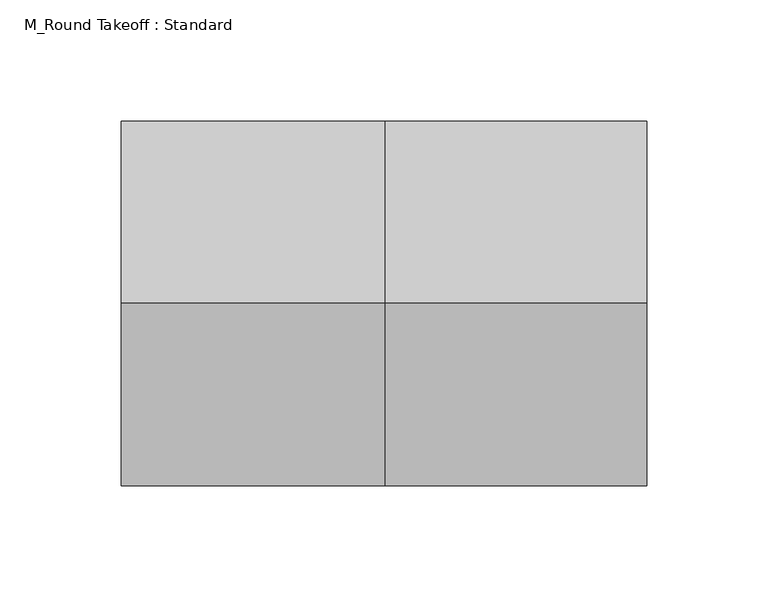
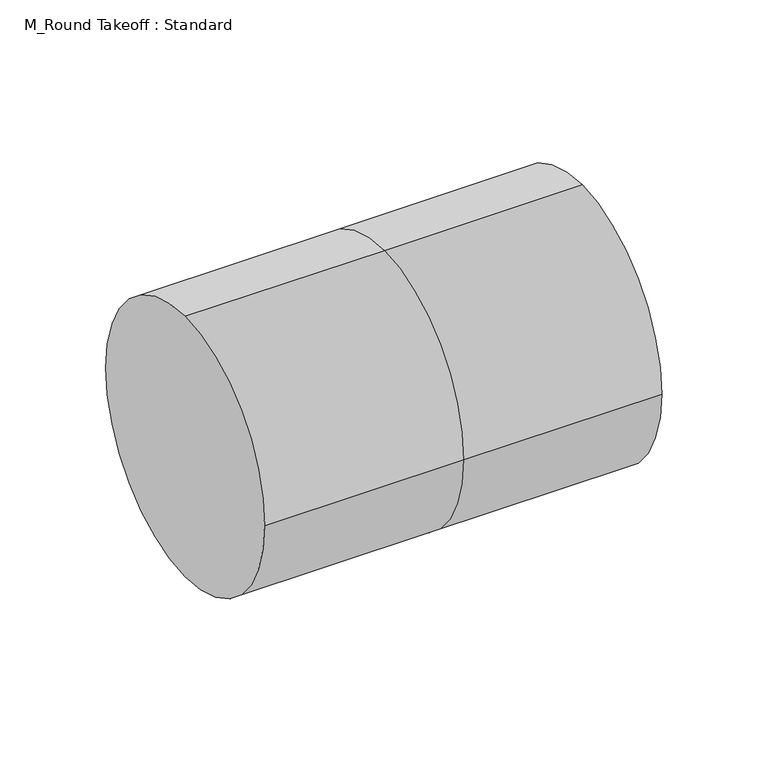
"""IFC4 building model written with IfcOpenShell, lengths in millimetres: duct fitting geometry, M_Round Takeoff : Standard."""

import ifcopenshell
import ifcopenshell.guid

model = None  # the IFC model being written
_history = None  # IfcOwnerHistory: only IFC2X3 demands one
_inside = {}  # id of a spatial element -> (the spatial element, [elements in it])
_under = {}  # id of a project, library or spatial element -> (it, [spatial elements below it])
_declared = {}  # id of a project -> (the project, [libraries it declares])
_typed = {}  # id of a type object -> (the type object, [elements of that type])
_made_of = {}  # id of a material, layer set ... -> (it, [elements and type objects made of it])


def new_model(schema):
    """Start an empty IFC model of exactly this schema.

    Asked for "IFC4X3", IfcOpenShell would pick the latest addendum, in which some entities
    have other attributes; the version numbers below select the first issue.
    IFC2X3 requires an IfcOwnerHistory on every rooted entity: one is made here for all.
    """
    global model, _history
    if schema == "IFC4X3":
        model = ifcopenshell.file(schema_version=(4, 3, 0, 0))
    else:
        model = ifcopenshell.file(schema=schema)
    _inside.clear()
    _under.clear()
    _declared.clear()
    _typed.clear()
    _made_of.clear()
    _history = None
    if model.schema == "IFC2X3":
        org = make("IfcOrganization", Name="unknown")
        user = make(
            "IfcPersonAndOrganization",
            ThePerson=make("IfcPerson", FamilyName="unknown"),
            TheOrganization=org,
        )
        app = make(
            "IfcApplication",
            ApplicationDeveloper=org,
            Version="unknown",
            ApplicationFullName="unknown",
            ApplicationIdentifier="unknown",
        )
        _history = make(
            "IfcOwnerHistory",
            OwningUser=user,
            OwningApplication=app,
            ChangeAction="ADDED",
            CreationDate=0,
        )
    return model


def make(cls, **values):
    """One entity of the class cls with the attributes given. An attribute that is None is left unset."""
    return model.create_entity(
        cls, **{name: value for name, value in values.items() if value is not None}
    )


def rooted(cls, **values):
    """An entity with a GlobalId (a new one), such as an element, a storey or a relation."""
    return make(cls, GlobalId=ifcopenshell.guid.new(), OwnerHistory=_history, **values)


def si_unit(unit_type, name, prefix=None):
    """IfcSIUnit, for example si_unit("LENGTHUNIT", "METRE", prefix="MILLI")."""
    return make("IfcSIUnit", UnitType=unit_type, Prefix=prefix, Name=name)


def assignment(units):
    """IfcUnitAssignment: the units of a project."""
    return None if units is None else make("IfcUnitAssignment", Units=units)


def point(xyz):
    """IfcCartesianPoint."""
    return None if xyz is None else make("IfcCartesianPoint", Coordinates=xyz)


def direction(xyz):
    """IfcDirection."""
    return None if xyz is None else make("IfcDirection", DirectionRatios=xyz)


def frame(location, z_axis=None, x_axis=None):
    """IfcAxis2Placement3D, a coordinate frame: its origin and axes. An axis left out is left unset."""
    return make(
        "IfcAxis2Placement3D",
        Location=point(location),
        Axis=direction(z_axis),
        RefDirection=direction(x_axis),
    )


def origin():
    """The frame at (0, 0, 0) with its axes left unset."""
    return frame((0.0, 0.0, 0.0))


def place(relative_to, where):
    """IfcLocalPlacement: puts the frame where relative to a parent placement (None: the world)."""
    return make(
        "IfcLocalPlacement", PlacementRelTo=relative_to, RelativePlacement=where
    )


def context(
    kind, dimensions, precision=None, world=None, true_north=None, identifier=None
):
    """IfcGeometricRepresentationContext, for example the 3D "Model" context."""
    return make(
        "IfcGeometricRepresentationContext",
        ContextIdentifier=identifier,
        ContextType=kind,
        CoordinateSpaceDimension=dimensions,
        Precision=precision,
        WorldCoordinateSystem=world,
        TrueNorth=true_north,
    )


def project(units=None, contexts=None):
    """IfcProject with its units and contexts."""
    return rooted(
        "IfcProject",
        Name="project",
        RepresentationContexts=contexts,
        UnitsInContext=assignment(units),
    )


def spatial(cls, under=None, at=None, **own):
    """A site, building, storey or space (cls), placed at a placement, below another one or the project."""
    s = rooted(cls, ObjectPlacement=at, **own)
    if under is not None:
        _under.setdefault(under.id(), (under, []))[1].append(s)
    return s


def circle_curve(where, radius):
    """IfcCircle in the frame where."""
    return make("IfcCircle", Position=where, Radius=radius)


def shape(context_of_items, identifier, shape_type, items):
    """IfcShapeRepresentation: the items that make up one representation, for example the "Body"."""
    return make(
        "IfcShapeRepresentation",
        ContextOfItems=context_of_items,
        RepresentationIdentifier=identifier,
        RepresentationType=shape_type,
        Items=items,
    )


def source(mapping_origin, context_of_items, identifier, shape_type, items):
    """IfcRepresentationMap: a shape defined once, which mapped items show again and again."""
    return make(
        "IfcRepresentationMap",
        MappingOrigin=mapping_origin,
        MappedRepresentation=shape(context_of_items, identifier, shape_type, items),
    )


def transform(
    local_origin,
    x_axis=None,
    y_axis=None,
    z_axis=None,
    scale=None,
    scale2=None,
    scale3=None,
    uniform=True,
):
    """IfcCartesianTransformationOperator3D, or its non-uniform kind. x_axis, y_axis, z_axis: its Axis1, 2, 3."""
    if uniform:
        return make(
            "IfcCartesianTransformationOperator3D",
            Axis1=direction(x_axis),
            Axis2=direction(y_axis),
            LocalOrigin=point(local_origin),
            Scale=scale,
            Axis3=direction(z_axis),
        )
    return make(
        "IfcCartesianTransformationOperator3DnonUniform",
        Axis1=direction(x_axis),
        Axis2=direction(y_axis),
        LocalOrigin=point(local_origin),
        Scale=scale,
        Axis3=direction(z_axis),
        Scale2=scale2,
        Scale3=scale3,
    )


def mapped(mapping_source, mapping_target):
    """IfcMappedItem: shows the shape of a source again, moved by a transform."""
    return make(
        "IfcMappedItem", MappingSource=mapping_source, MappingTarget=mapping_target
    )


def made_of(thing, what):
    """Note that an element or type object is made of a material, layer set ...; save() writes the relation."""
    if what is not None:
        _made_of.setdefault(what.id(), (what, []))[1].append(thing)
    return thing


def element(
    cls,
    number,
    at=None,
    inside=None,
    cuts=None,
    type_object=None,
    material=None,
    context=None,
    identifier="Body",
    shape_type=None,
    held_by="IfcProductDefinitionShape",
    body=None,
    shapes=None,
    **own,
):
    """One element of the class cls, such as IfcWall. Its Tag is "e" and its number.

    at: its placement. inside: the storey or other place that contains it. cuts: it is an
    opening in that element (IfcRelVoidsElement). A single representation is given by context,
    identifier, shape_type and body (its items); several are given by shapes. held_by: the class
    of the entity that holds the representations. save() writes the other relations.
    """
    e = rooted(cls, Tag="e%d" % number, ObjectPlacement=at, **own)
    if body is not None:
        shapes = [shape(context, identifier, shape_type, body)]
    if shapes is not None:
        e.Representation = make(held_by, Representations=shapes)
    if inside is not None:
        _inside.setdefault(inside.id(), (inside, []))[1].append(e)
    if cuts is not None:
        rooted(
            "IfcRelVoidsElement", RelatingBuildingElement=cuts, RelatedOpeningElement=e
        )
    if type_object is not None:
        _typed.setdefault(type_object.id(), (type_object, []))[1].append(e)
    return made_of(e, material)


def aggregate(whole, parts):
    """IfcRelAggregates: a whole, such as a stair, and the parts it consists of."""
    return rooted("IfcRelAggregates", RelatingObject=whole, RelatedObjects=parts)


def save(model, path):
    """Write the relations noted so far, then the file.

    IfcRelAggregates (storeys below a building ...), IfcRelContainedInSpatialStructure (elements
    in a storey), IfcRelDefinesByType, IfcRelAssociatesMaterial and IfcRelDeclares: one each for
    every whole, place, type object, material and project.
    """
    for whole, parts in _under.values():
        aggregate(whole, parts)
    for where, things in _inside.values():
        rooted(
            "IfcRelContainedInSpatialStructure",
            RelatedElements=things,
            RelatingStructure=where,
        )
    for kind, things in _typed.values():
        rooted("IfcRelDefinesByType", RelatedObjects=things, RelatingType=kind)
    for what, things in _made_of.values():
        rooted("IfcRelAssociatesMaterial", RelatedObjects=things, RelatingMaterial=what)
    for by, libraries in _declared.values():
        rooted("IfcRelDeclares", RelatingContext=by, RelatedDefinitions=libraries)
    model.write(path)


def plane_surface(at):
    """IfcPlane: the flat surface through the origin of the frame at, square to its z axis."""
    return make("IfcPlane", Position=at)


def cylinder_surface(at, radius):
    """IfcCylindricalSurface: all points at the distance radius from the z axis of the frame at."""
    return make("IfcCylindricalSurface", Position=at, Radius=radius)


def advanced_brep(points, edges, surfaces, faces):
    """IfcAdvancedBrep: a solid bounded by faces that lie on surfaces and meet in shared edges.

    An edge is (start, end): straight between two places in points (the first is 0);
    or (start, end, curve); or (start, end, curve, False) where it runs against its curve.
    A face is (place in surfaces, loops), or (place, loops, False) where it looks against
    its surface's normal. A loop lists edges by number (the first is 1), with a minus sign
    where the edge is run from its end to its start. The first loop is the outer one.
    """
    corners = [point(p) for p in points]
    vertices = [make("IfcVertexPoint", VertexGeometry=c) for c in corners]
    made = []
    for start, end, *more in edges:
        made.append(
            make(
                "IfcEdgeCurve",
                EdgeStart=vertices[start],
                EdgeEnd=vertices[end],
                EdgeGeometry=more[0] if more else make("IfcPolyline", Points=[corners[start], corners[end]]),
                SameSense=more[1] if len(more) > 1 else True,
            )
        )
    hull = []
    for where, loops, *sense in faces:
        bounds = []
        for j, loop in enumerate(loops):
            ring = [make("IfcOrientedEdge", EdgeElement=made[abs(k) - 1], Orientation=k > 0) for k in loop]
            bounds.append(
                make(
                    "IfcFaceOuterBound" if j == 0 else "IfcFaceBound",
                    Bound=make("IfcEdgeLoop", EdgeList=ring),
                    Orientation=True,
                )
            )
        hull.append(make("IfcAdvancedFace", Bounds=bounds, FaceSurface=surfaces[where], SameSense=sense[0] if sense else True))
    return make("IfcAdvancedBrep", Outer=make("IfcClosedShell", CfsFaces=hull))


def m_round_takeoff_standard_9070d994(model_context):
    return source(origin(), model_context, "Body", "AdvancedBrep", [
        advanced_brep(
        [(-108.4683924, 0.0, 75.0), (-108.4683924, 75.0, 0.0), (-108.4683924, 0.0, -75.0), (-108.4683924, -75.0, 0.0), (0.0, -75.0, 0.0), (0.0, 0.0, 75.0), (0.0, 0.0, -75.0), (0.0, 75.0, 0.0), (107.9100948, 0.0, 75.0), (107.9100948, -75.0, 0.0), (107.9100948, 0.0, -75.0), (107.9100948, 75.0, 0.0)],
        [
            (0, 1, circle_curve(frame((-108.4683924, 0.0, 0.0), z_axis=(-1.0, 0.0, 0.0), x_axis=(0.0, -1.0, 0.0)), 75.0)),
            (1, 2, circle_curve(frame((-108.4683924, 0.0, 0.0), z_axis=(-1.0, 0.0, 0.0), x_axis=(0.0, -1.0, 0.0)), 75.0)),
            (2, 3, circle_curve(frame((-108.4683924, 0.0, 0.0), z_axis=(-1.0, 0.0, 0.0), x_axis=(0.0, -1.0, 0.0)), 75.0)),
            (3, 0, circle_curve(frame((-108.4683924, 0.0, 0.0), z_axis=(-1.0, 0.0, 0.0), x_axis=(0.0, -1.0, 0.0)), 75.0)),
            (3, 4),
            (4, 5, circle_curve(frame((0.0, 0.0, 0.0), z_axis=(-1.0, 0.0, 0.0), x_axis=(0.0, -1.0, 0.0)), 75.0)),
            (5, 0),
            (2, 6),
            (6, 4, circle_curve(frame((0.0, 0.0, 0.0), z_axis=(-1.0, 0.0, 0.0), x_axis=(0.0, -1.0, 0.0)), 75.0)),
            (1, 7),
            (7, 6, circle_curve(frame((0.0, 0.0, 0.0), z_axis=(-1.0, 0.0, 0.0), x_axis=(0.0, -1.0, 0.0)), 75.0)),
            (5, 7, circle_curve(frame((0.0, 0.0, 0.0), z_axis=(-1.0, 0.0, 0.0), x_axis=(0.0, -1.0, 0.0)), 75.0)),
            (8, 9, circle_curve(frame((107.9100948, 0.0, 0.0), z_axis=(1.0, 0.0, 0.0), x_axis=(0.0, -1.0, 0.0)), 75.0)),
            (9, 10, circle_curve(frame((107.9100948, 0.0, 0.0), z_axis=(1.0, 0.0, 0.0), x_axis=(0.0, -1.0, 0.0)), 75.0)),
            (10, 11, circle_curve(frame((107.9100948, 0.0, 0.0), z_axis=(1.0, 0.0, 0.0), x_axis=(0.0, -1.0, 0.0)), 75.0)),
            (11, 8, circle_curve(frame((107.9100948, 0.0, 0.0), z_axis=(1.0, 0.0, 0.0), x_axis=(0.0, -1.0, 0.0)), 75.0)),
            (8, 5),
            (4, 9),
            (6, 10),
            (7, 11),
        ],
        [
            plane_surface(frame((-108.4683924, 0.0, 0.0), z_axis=(-1.0, 0.0, 0.0), x_axis=(0.0, 0.0, 1.0))),
            cylinder_surface(frame((-108.4683924, 0.0, 0.0), z_axis=(-1.0, 0.0, 0.0), x_axis=(0.0, -1.0, 0.0)), 75.0),
            plane_surface(frame((107.9100948, 0.0, 0.0), z_axis=(1.0, 0.0, 0.0), x_axis=(0.0, 0.0, 1.0))),
            cylinder_surface(frame((0.0, 0.0, 0.0), z_axis=(-1.0, 0.0, 0.0), x_axis=(0.0, -1.0, 0.0)), 75.0),
        ],
        [
            (0, [[1, 2, 3, 4]]),
            (1, [[5, 6, 7, -4]]),
            (1, [[8, 9, -5, -3]]),
            (1, [[10, 11, -8, -2]]),
            (1, [[-7, 12, -10, -1]]),
            (2, [[13, 14, 15, 16]]),
            (3, [[17, -6, 18, -13]]),
            (3, [[-18, -9, 19, -14]]),
            (3, [[-19, -11, 20, -15]]),
            (3, [[-20, -12, -17, -16]]),
        ],
    ),
        advanced_brep(
        [(107.9100948, 0.0, 75.0), (107.9100948, -75.0, 0.0), (107.9100948, 0.0, -75.0), (107.9100948, 75.0, 0.0), (0.0, 0.0, 75.0), (0.0, -75.0, 0.0), (0.0, 0.0, -75.0), (0.0, 75.0, 0.0), (-108.4683924, 0.0, 75.0), (-108.4683924, 75.0, 0.0), (-108.4683924, 0.0, -75.0), (-108.4683924, -75.0, 0.0)],
        [
            (0, 1, circle_curve(frame((107.9100948, 0.0, 0.0), z_axis=(1.0, 0.0, 0.0), x_axis=(0.0, -1.0, 0.0)), 75.0)),
            (1, 2, circle_curve(frame((107.9100948, 0.0, 0.0), z_axis=(1.0, 0.0, 0.0), x_axis=(0.0, -1.0, 0.0)), 75.0)),
            (2, 3, circle_curve(frame((107.9100948, 0.0, 0.0), z_axis=(1.0, 0.0, 0.0), x_axis=(0.0, -1.0, 0.0)), 75.0)),
            (3, 0, circle_curve(frame((107.9100948, 0.0, 0.0), z_axis=(1.0, 0.0, 0.0), x_axis=(0.0, -1.0, 0.0)), 75.0)),
            (0, 4),
            (4, 5, circle_curve(frame((0.0, 0.0, 0.0), z_axis=(1.0, 0.0, 0.0), x_axis=(0.0, -1.0, 0.0)), 75.0)),
            (5, 1),
            (5, 6, circle_curve(frame((0.0, 0.0, 0.0), z_axis=(1.0, 0.0, 0.0), x_axis=(0.0, -1.0, 0.0)), 75.0)),
            (6, 2),
            (6, 7, circle_curve(frame((0.0, 0.0, 0.0), z_axis=(1.0, 0.0, 0.0), x_axis=(0.0, -1.0, 0.0)), 75.0)),
            (7, 3),
            (7, 4, circle_curve(frame((0.0, 0.0, 0.0), z_axis=(1.0, 0.0, 0.0), x_axis=(0.0, -1.0, 0.0)), 75.0)),
            (8, 9, circle_curve(frame((-108.4683924, 0.0, 0.0), z_axis=(-1.0, 0.0, 0.0), x_axis=(0.0, -1.0, 0.0)), 75.0)),
            (9, 10, circle_curve(frame((-108.4683924, 0.0, 0.0), z_axis=(-1.0, 0.0, 0.0), x_axis=(0.0, -1.0, 0.0)), 75.0)),
            (10, 11, circle_curve(frame((-108.4683924, 0.0, 0.0), z_axis=(-1.0, 0.0, 0.0), x_axis=(0.0, -1.0, 0.0)), 75.0)),
            (11, 8, circle_curve(frame((-108.4683924, 0.0, 0.0), z_axis=(-1.0, 0.0, 0.0), x_axis=(0.0, -1.0, 0.0)), 75.0)),
            (11, 5),
            (4, 8),
            (10, 6),
            (9, 7),
        ],
        [
            plane_surface(frame((107.9100948, 0.0, 0.0), z_axis=(1.0, 0.0, 0.0), x_axis=(0.0, 0.0, 1.0))),
            cylinder_surface(frame((0.0, 0.0, 0.0), z_axis=(-1.0, 0.0, 0.0), x_axis=(0.0, -1.0, 0.0)), 75.0),
            plane_surface(frame((-108.4683924, 0.0, 0.0), z_axis=(-1.0, 0.0, 0.0), x_axis=(0.0, 0.0, 1.0))),
            cylinder_surface(frame((-108.4683924, 0.0, 0.0), z_axis=(-1.0, 0.0, 0.0), x_axis=(0.0, -1.0, 0.0)), 75.0),
        ],
        [
            (0, [[1, 2, 3, 4]]),
            (1, [[5, 6, 7, -1]]),
            (1, [[-7, 8, 9, -2]]),
            (1, [[-9, 10, 11, -3]]),
            (1, [[-11, 12, -5, -4]]),
            (2, [[13, 14, 15, 16]]),
            (3, [[17, -6, 18, -16]]),
            (3, [[19, -8, -17, -15]]),
            (3, [[20, -10, -19, -14]]),
            (3, [[-18, -12, -20, -13]]),
        ],
    ),
        advanced_brep(
        [(-108.4683924, 0.0, 75.0), (-108.4683924, 75.0, 0.0), (-108.4683924, 0.0, -75.0), (-108.4683924, -75.0, 0.0), (0.0, -75.0, 0.0), (0.0, 0.0, 75.0), (0.0, 0.0, -75.0), (0.0, 75.0, 0.0), (107.9100948, 0.0, 75.0), (107.9100948, -75.0, 0.0), (107.9100948, 0.0, -75.0), (107.9100948, 75.0, 0.0)],
        [
            (0, 1, circle_curve(frame((-108.4683924, 0.0, 0.0), z_axis=(-1.0, 0.0, 0.0), x_axis=(0.0, -1.0, 0.0)), 75.0)),
            (1, 2, circle_curve(frame((-108.4683924, 0.0, 0.0), z_axis=(-1.0, 0.0, 0.0), x_axis=(0.0, -1.0, 0.0)), 75.0)),
            (2, 3, circle_curve(frame((-108.4683924, 0.0, 0.0), z_axis=(-1.0, 0.0, 0.0), x_axis=(0.0, -1.0, 0.0)), 75.0)),
            (3, 0, circle_curve(frame((-108.4683924, 0.0, 0.0), z_axis=(-1.0, 0.0, 0.0), x_axis=(0.0, -1.0, 0.0)), 75.0)),
            (3, 4),
            (4, 5, circle_curve(frame((0.0, 0.0, 0.0), z_axis=(-1.0, 0.0, 0.0), x_axis=(0.0, -1.0, 0.0)), 75.0)),
            (5, 0),
            (2, 6),
            (6, 4, circle_curve(frame((0.0, 0.0, 0.0), z_axis=(-1.0, 0.0, 0.0), x_axis=(0.0, -1.0, 0.0)), 75.0)),
            (1, 7),
            (7, 6, circle_curve(frame((0.0, 0.0, 0.0), z_axis=(-1.0, 0.0, 0.0), x_axis=(0.0, -1.0, 0.0)), 75.0)),
            (5, 7, circle_curve(frame((0.0, 0.0, 0.0), z_axis=(-1.0, 0.0, 0.0), x_axis=(0.0, -1.0, 0.0)), 75.0)),
            (8, 9, circle_curve(frame((107.9100948, 0.0, 0.0), z_axis=(1.0, 0.0, 0.0), x_axis=(0.0, -1.0, 0.0)), 75.0)),
            (9, 10, circle_curve(frame((107.9100948, 0.0, 0.0), z_axis=(1.0, 0.0, 0.0), x_axis=(0.0, -1.0, 0.0)), 75.0)),
            (10, 11, circle_curve(frame((107.9100948, 0.0, 0.0), z_axis=(1.0, 0.0, 0.0), x_axis=(0.0, -1.0, 0.0)), 75.0)),
            (11, 8, circle_curve(frame((107.9100948, 0.0, 0.0), z_axis=(1.0, 0.0, 0.0), x_axis=(0.0, -1.0, 0.0)), 75.0)),
            (8, 5),
            (4, 9),
            (6, 10),
            (7, 11),
        ],
        [
            plane_surface(frame((-108.4683924, 0.0, 0.0), z_axis=(-1.0, 0.0, 0.0), x_axis=(0.0, 0.0, 1.0))),
            cylinder_surface(frame((-108.4683924, 0.0, 0.0), z_axis=(-1.0, 0.0, 0.0), x_axis=(0.0, -1.0, 0.0)), 75.0),
            plane_surface(frame((107.9100948, 0.0, 0.0), z_axis=(1.0, 0.0, 0.0), x_axis=(0.0, 0.0, 1.0))),
            cylinder_surface(frame((0.0, 0.0, 0.0), z_axis=(-1.0, 0.0, 0.0), x_axis=(0.0, -1.0, 0.0)), 75.0),
        ],
        [
            (0, [[1, 2, 3, 4]]),
            (1, [[5, 6, 7, -4]]),
            (1, [[8, 9, -5, -3]]),
            (1, [[10, 11, -8, -2]]),
            (1, [[-7, 12, -10, -1]]),
            (2, [[13, 14, 15, 16]]),
            (3, [[17, -6, 18, -13]]),
            (3, [[-18, -9, 19, -14]]),
            (3, [[-19, -11, 20, -15]]),
            (3, [[-20, -12, -17, -16]]),
        ],
    ),
    ])


if __name__ == "__main__":
    model = new_model("IFC4")
    model_context = context("Model", 3, world=origin())
    ifc_project = project(units=[si_unit("LENGTHUNIT", "METRE", prefix="MILLI")], contexts=[model_context])
    site = spatial("IfcSite", under=ifc_project)
    building = spatial("IfcBuilding", under=site)
    placement = place(None, origin())
    m_round_takeoff_standard_shape = m_round_takeoff_standard_9070d994(model_context)
    element("IfcDuctFitting", 1, ObjectType="M_Round Takeoff : Standard", at=placement, inside=building, context=model_context, shape_type="MappedRepresentation", body=[
        mapped(m_round_takeoff_standard_shape, transform((0.0, 0.0, 0.0), x_axis=(1.0, 0.0, 0.0), y_axis=(0.0, 1.0, 0.0), z_axis=(0.0, 0.0, 1.0))),
    ])
    save(model, "model.ifc")
